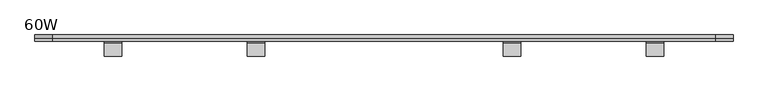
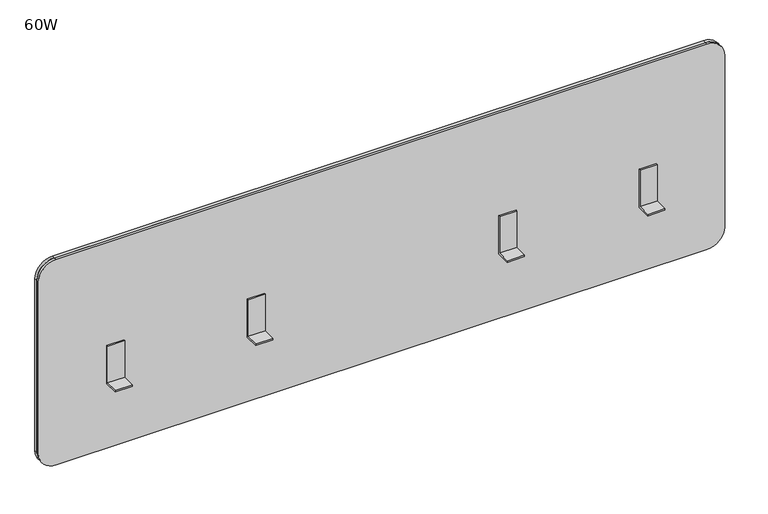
"""IFC4 building model written with IfcOpenShell, lengths in millimetres: furniture geometry, Steelcase Turnstone - Bivi - Screen - Straight : 60W."""

from ifc_helpers import new_model, si_unit, point, frame, frame_2d, origin, place, context, project, spatial, polyline, circle_curve, trimmed, segment, composite_curve, outline, extrude, source, transform, mapped, element, save


def furniture_60w_9fa3c8d5(model_context):
    return source(origin(), model_context, "Body", "SweptSolid", [
        extrude(outline(polyline([(-100.6456009, 700.9734272), (-100.6456009, 787.0495535), (-97.6872108, 787.0495535), (-97.6872108, 697.3921394), (-130.205922, 697.3921394), (-130.205922, 700.9734272), (-100.6456009, 700.9734272)])), frame((463.3038388, 0.0, 0.0), z_axis=(1.0, 0.0, 0.0), x_axis=(0.0, 1.0, 0.0)), (0.0, 0.0, 1.0), 38.2069702),
        extrude(outline(polyline([(-100.6456009, 700.9734272), (-100.6456009, 787.0495535), (-97.6872108, 787.0495535), (-97.6872108, 697.3921394), (-130.205922, 697.3921394), (-130.205922, 700.9734272), (-100.6456009, 700.9734272)])), frame((1022.489191, 0.0, 0.0), z_axis=(1.0, 0.0, 0.0), x_axis=(0.0, 1.0, 0.0)), (0.0, 0.0, 1.0), 38.2069702),
        extrude(outline(polyline([(-100.6456009, 700.9734272), (-100.6456009, 787.0495535), (-97.6872108, 787.0495535), (-97.6872108, 697.3921394), (-130.205922, 697.3921394), (-130.205922, 700.9734272), (-100.6456009, 700.9734272)])), frame((1334.4617872, 0.0, 0.0), z_axis=(1.0, 0.0, 0.0), x_axis=(0.0, 1.0, 0.0)), (0.0, 0.0, 1.0), 38.2069702),
        extrude(outline(polyline([(-100.6456009, 700.9734272), (-100.6456009, 787.0495535), (-97.6872108, 787.0495535), (-97.6872108, 697.3921394), (-130.205922, 697.3921394), (-130.205922, 700.9734272), (-100.6456009, 700.9734272)])), frame((151.3312426, 0.0, 0.0), z_axis=(1.0, 0.0, 0.0), x_axis=(0.0, 1.0, 0.0)), (0.0, 0.0, 1.0), 38.2069702),
        extrude(outline(composite_curve([segment(polyline([(1028.3412889, 1484.63), (1028.3412889, 39.4397467)]), True, "CONTINUOUS"), segment(trimmed(circle_curve(frame_2d((988.9015421, 39.4397467)), 39.4397467), [point((1028.3412889, 39.4397467))], [point((988.9015421, 0.0))], False, "CARTESIAN"), True, "CONTINUOUS"), segment(polyline([(988.9015421, 0.0), (585.1278182, 0.0)]), True, "CONTINUOUS"), segment(trimmed(circle_curve(frame_2d((585.1278182, 39.37)), 39.37), [point((585.1278182, 0.0))], [point((545.7578182, 39.37))], False, "CARTESIAN"), True, "CONTINUOUS"), segment(polyline([(545.7578182, 39.37), (545.7578182, 1484.63)]), True, "CONTINUOUS"), segment(trimmed(circle_curve(frame_2d((585.1278182, 1484.63)), 39.37), [point((545.7578182, 1484.63))], [point((585.1278182, 1524.0))], False, "CARTESIAN"), True, "CONTINUOUS"), segment(polyline([(585.1278182, 1524.0), (988.9712889, 1524.0)]), True, "CONTINUOUS"), segment(trimmed(circle_curve(frame_2d((988.9712889, 1484.63)), 39.37), [point((988.9712889, 1524.0))], [point((1028.3412889, 1484.63))], False, "CARTESIAN"), True, "CONTINUOUS")], self_intersect=False)), frame((0.0, -90.878476, 0.0), z_axis=(0.0, 1.0, 0.0), x_axis=(0.0, 0.0, 1.0)), (0.0, 0.0, 1.0), 6.8087348),
        extrude(outline(composite_curve([segment(polyline([(1028.3412889, 1484.63), (1028.3412889, 39.4397467)]), True, "CONTINUOUS"), segment(trimmed(circle_curve(frame_2d((988.9015421, 39.4397467)), 39.4397467), [point((1028.3412889, 39.4397467))], [point((988.9015421, 0.0))], False, "CARTESIAN"), True, "CONTINUOUS"), segment(polyline([(988.9015421, 0.0), (585.1278182, 0.0)]), True, "CONTINUOUS"), segment(trimmed(circle_curve(frame_2d((585.1278182, 39.37)), 39.37), [point((585.1278182, 0.0))], [point((545.7578182, 39.37))], False, "CARTESIAN"), True, "CONTINUOUS"), segment(polyline([(545.7578182, 39.37), (545.7578182, 1484.63)]), True, "CONTINUOUS"), segment(trimmed(circle_curve(frame_2d((585.1278182, 1484.63)), 39.37), [point((545.7578182, 1484.63))], [point((585.1278182, 1524.0))], False, "CARTESIAN"), True, "CONTINUOUS"), segment(polyline([(585.1278182, 1524.0), (988.9712889, 1524.0)]), True, "CONTINUOUS"), segment(trimmed(circle_curve(frame_2d((988.9712889, 1484.63)), 39.37), [point((988.9712889, 1524.0))], [point((1028.3412889, 1484.63))], False, "CARTESIAN"), True, "CONTINUOUS")], self_intersect=False)), frame((0.0, -97.6872108, 0.0), z_axis=(0.0, 1.0, 0.0), x_axis=(0.0, 0.0, 1.0)), (0.0, 0.0, 1.0), 6.8087348),
    ])


if __name__ == "__main__":
    model = new_model("IFC4")
    model_context = context("Model", 3, world=origin())
    ifc_project = project(units=[si_unit("LENGTHUNIT", "METRE", prefix="MILLI")], contexts=[model_context])
    site = spatial("IfcSite", under=ifc_project)
    building = spatial("IfcBuilding", under=site)
    placement = place(None, origin())
    furniture_60w_shape = furniture_60w_9fa3c8d5(model_context)
    element("IfcFurniture", 1, ObjectType="Steelcase Turnstone - Bivi - Screen - Straight : 60W", at=placement, inside=building, context=model_context, shape_type="MappedRepresentation", body=[
        mapped(furniture_60w_shape, transform((0.0, 0.0, 0.0), x_axis=(1.0, 0.0, 0.0), y_axis=(0.0, 1.0, 0.0), z_axis=(0.0, 0.0, 1.0))),
    ])
    save(model, "model.ifc")
